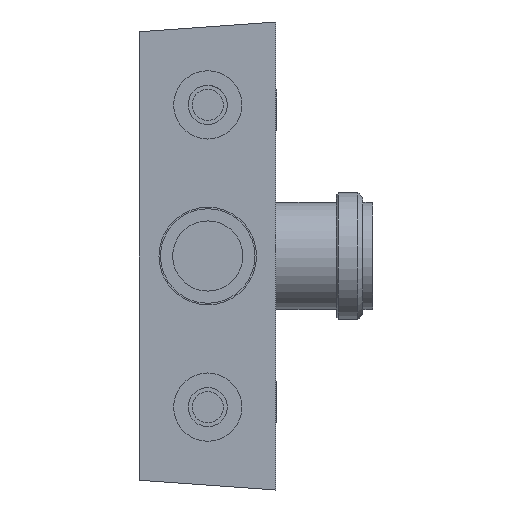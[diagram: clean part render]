
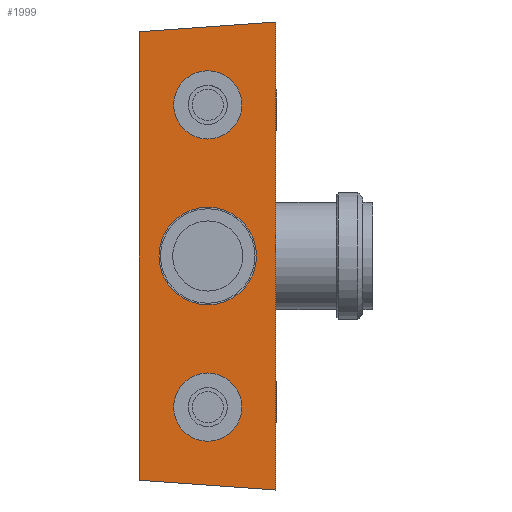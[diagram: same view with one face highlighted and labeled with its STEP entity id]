
A CAD part, front view. The second image highlights one B-rep face of the part: STEP entity #1999.
In plain terms, the highlighted planar face has unit normal (0, -1, 0).
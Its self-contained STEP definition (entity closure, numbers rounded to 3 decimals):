
#105=FACE_BOUND('',#352,.T.);
#106=FACE_BOUND('',#353,.T.);
#107=FACE_BOUND('',#354,.T.);
#133=PLANE('',#2259);
#225=FACE_OUTER_BOUND('',#351,.T.);
#351=EDGE_LOOP('',(#1469,#1470,#1471,#1472));
#352=EDGE_LOOP('',(#1473));
#353=EDGE_LOOP('',(#1474));
#354=EDGE_LOOP('',(#1475));
#483=LINE('',#2974,#687);
#487=LINE('',#2983,#691);
#491=LINE('',#2990,#695);
#492=LINE('',#2991,#696);
#687=VECTOR('',#2467,10.);
#691=VECTOR('',#2473,10.);
#695=VECTOR('',#2479,10.);
#696=VECTOR('',#2480,10.);
#905=CIRCLE('',#2260,25.);
#906=CIRCLE('',#2261,17.5);
#907=CIRCLE('',#2262,17.5);
#951=VERTEX_POINT('',#2972);
#952=VERTEX_POINT('',#2973);
#955=VERTEX_POINT('',#2981);
#956=VERTEX_POINT('',#2982);
#959=VERTEX_POINT('',#2992);
#960=VERTEX_POINT('',#2994);
#961=VERTEX_POINT('',#2996);
#1149=EDGE_CURVE('',#951,#952,#483,.T.);
#1153=EDGE_CURVE('',#955,#956,#487,.T.);
#1157=EDGE_CURVE('',#955,#952,#491,.T.);
#1158=EDGE_CURVE('',#951,#956,#492,.T.);
#1159=EDGE_CURVE('',#959,#959,#905,.T.);
#1160=EDGE_CURVE('',#960,#960,#906,.T.);
#1161=EDGE_CURVE('',#961,#961,#907,.T.);
#1469=ORIENTED_EDGE('',*,*,#1149,.T.);
#1470=ORIENTED_EDGE('',*,*,#1157,.F.);
#1471=ORIENTED_EDGE('',*,*,#1153,.T.);
#1472=ORIENTED_EDGE('',*,*,#1158,.F.);
#1473=ORIENTED_EDGE('',*,*,#1159,.T.);
#1474=ORIENTED_EDGE('',*,*,#1160,.T.);
#1475=ORIENTED_EDGE('',*,*,#1161,.T.);
#1999=ADVANCED_FACE('',(#225,#105,#106,#107),#133,.T.);
#2259=AXIS2_PLACEMENT_3D('',#2989,#2477,#2478);
#2260=AXIS2_PLACEMENT_3D('',#2993,#2481,#2482);
#2261=AXIS2_PLACEMENT_3D('',#2995,#2483,#2484);
#2262=AXIS2_PLACEMENT_3D('',#2997,#2485,#2486);
#2467=DIRECTION('',(-0.997,0.,-0.071));
#2473=DIRECTION('',(0.997,0.,-0.071));
#2477=DIRECTION('center_axis',(0.,-1.,0.));
#2478=DIRECTION('ref_axis',(0.,0.,-1.));
#2479=DIRECTION('',(0.,0.,1.));
#2480=DIRECTION('',(0.,0.,-1.));
#2481=DIRECTION('center_axis',(0.,1.,0.));
#2482=DIRECTION('ref_axis',(-1.,0.,0.));
#2483=DIRECTION('center_axis',(0.,1.,0.));
#2484=DIRECTION('ref_axis',(-1.,0.,0.));
#2485=DIRECTION('center_axis',(0.,1.,0.));
#2486=DIRECTION('ref_axis',(-1.,0.,0.));
#2972=CARTESIAN_POINT('',(70.,0.,0.));
#2973=CARTESIAN_POINT('',(0.,0.,-5.));
#2974=CARTESIAN_POINT('',(0.178,0.,-4.987));
#2981=CARTESIAN_POINT('',(0.,0.,-235.));
#2982=CARTESIAN_POINT('',(70.,0.,-240.));
#2983=CARTESIAN_POINT('',(26.65,0.,-236.904));
#2989=CARTESIAN_POINT('Origin',(0.,0.,0.));
#2990=CARTESIAN_POINT('',(0.,0.,-240.));
#2991=CARTESIAN_POINT('',(70.,0.,-240.));
#2992=CARTESIAN_POINT('',(60.,0.,-120.));
#2993=CARTESIAN_POINT('Origin',(35.,0.,-120.));
#2994=CARTESIAN_POINT('',(52.5,0.,-197.5));
#2995=CARTESIAN_POINT('Origin',(35.,0.,-197.5));
#2996=CARTESIAN_POINT('',(52.5,0.,-42.5));
#2997=CARTESIAN_POINT('Origin',(35.,0.,-42.5));
